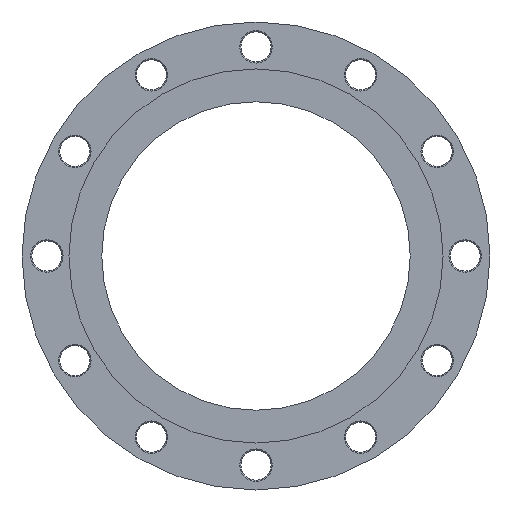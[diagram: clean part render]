
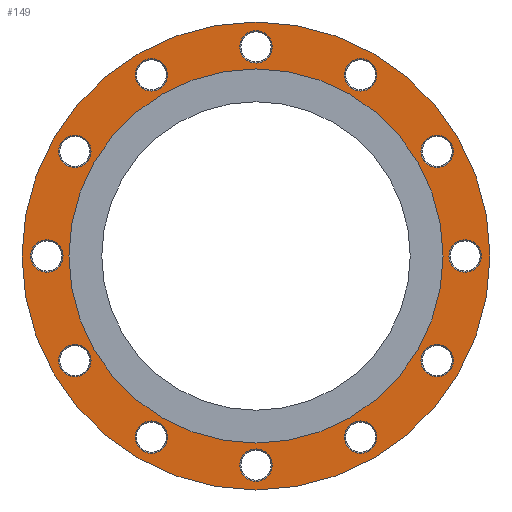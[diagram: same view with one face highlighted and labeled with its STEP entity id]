
A CAD part, front view. The second image highlights one B-rep face of the part: STEP entity #149.
In plain terms, the highlighted planar face has unit normal (0, -1, 0).
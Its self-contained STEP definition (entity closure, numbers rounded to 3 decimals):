
#149=ADVANCED_FACE('',(#209,#210,#211,#212,#213,#214,#215,#216,#217,#218,
#219,#220,#221,#222),#205,.F.);
#205=PLANE('',#836);
#209=FACE_BOUND('',#345,.T.);
#210=FACE_BOUND('',#346,.T.);
#211=FACE_BOUND('',#347,.T.);
#212=FACE_BOUND('',#348,.T.);
#213=FACE_BOUND('',#349,.T.);
#214=FACE_BOUND('',#350,.T.);
#215=FACE_BOUND('',#351,.T.);
#216=FACE_BOUND('',#352,.T.);
#217=FACE_BOUND('',#353,.T.);
#218=FACE_BOUND('',#354,.T.);
#219=FACE_BOUND('',#355,.T.);
#220=FACE_BOUND('',#356,.T.);
#221=FACE_BOUND('',#357,.T.);
#222=FACE_BOUND('',#358,.T.);
#345=EDGE_LOOP('',(#481));
#346=EDGE_LOOP('',(#482));
#347=EDGE_LOOP('',(#483));
#348=EDGE_LOOP('',(#484));
#349=EDGE_LOOP('',(#485));
#350=EDGE_LOOP('',(#486));
#351=EDGE_LOOP('',(#487));
#352=EDGE_LOOP('',(#488));
#353=EDGE_LOOP('',(#489));
#354=EDGE_LOOP('',(#490));
#355=EDGE_LOOP('',(#491));
#356=EDGE_LOOP('',(#492));
#357=EDGE_LOOP('',(#493));
#358=EDGE_LOOP('',(#494));
#481=ORIENTED_EDGE('',*,*,#685,.T.);
#482=ORIENTED_EDGE('',*,*,#686,.T.);
#483=ORIENTED_EDGE('',*,*,#687,.T.);
#484=ORIENTED_EDGE('',*,*,#688,.T.);
#485=ORIENTED_EDGE('',*,*,#689,.T.);
#486=ORIENTED_EDGE('',*,*,#690,.T.);
#487=ORIENTED_EDGE('',*,*,#691,.T.);
#488=ORIENTED_EDGE('',*,*,#692,.T.);
#489=ORIENTED_EDGE('',*,*,#693,.T.);
#490=ORIENTED_EDGE('',*,*,#694,.T.);
#491=ORIENTED_EDGE('',*,*,#695,.T.);
#492=ORIENTED_EDGE('',*,*,#696,.T.);
#493=ORIENTED_EDGE('',*,*,#697,.T.);
#494=ORIENTED_EDGE('',*,*,#698,.F.);
#617=VERTEX_POINT('',#1198);
#618=VERTEX_POINT('',#1200);
#619=VERTEX_POINT('',#1202);
#620=VERTEX_POINT('',#1204);
#621=VERTEX_POINT('',#1206);
#622=VERTEX_POINT('',#1208);
#623=VERTEX_POINT('',#1210);
#624=VERTEX_POINT('',#1212);
#625=VERTEX_POINT('',#1214);
#626=VERTEX_POINT('',#1216);
#627=VERTEX_POINT('',#1218);
#628=VERTEX_POINT('',#1220);
#629=VERTEX_POINT('',#1222);
#630=VERTEX_POINT('',#1224);
#685=EDGE_CURVE('',#617,#617,#753,.T.);
#686=EDGE_CURVE('',#618,#618,#754,.T.);
#687=EDGE_CURVE('',#619,#619,#755,.T.);
#688=EDGE_CURVE('',#620,#620,#756,.T.);
#689=EDGE_CURVE('',#621,#621,#757,.T.);
#690=EDGE_CURVE('',#622,#622,#758,.T.);
#691=EDGE_CURVE('',#623,#623,#759,.T.);
#692=EDGE_CURVE('',#624,#624,#760,.T.);
#693=EDGE_CURVE('',#625,#625,#761,.T.);
#694=EDGE_CURVE('',#626,#626,#762,.T.);
#695=EDGE_CURVE('',#627,#627,#763,.T.);
#696=EDGE_CURVE('',#628,#628,#764,.T.);
#697=EDGE_CURVE('',#629,#629,#765,.T.);
#698=EDGE_CURVE('',#630,#630,#766,.T.);
#753=CIRCLE('',#822,14.);
#754=CIRCLE('',#823,14.);
#755=CIRCLE('',#824,14.);
#756=CIRCLE('',#825,14.);
#757=CIRCLE('',#826,14.);
#758=CIRCLE('',#827,14.);
#759=CIRCLE('',#828,14.);
#760=CIRCLE('',#829,14.);
#761=CIRCLE('',#830,14.);
#762=CIRCLE('',#831,14.);
#763=CIRCLE('',#832,14.);
#764=CIRCLE('',#833,14.);
#765=CIRCLE('',#834,202.5);
#766=CIRCLE('',#835,161.9);
#822=AXIS2_PLACEMENT_3D('',#1197,#948,#949);
#823=AXIS2_PLACEMENT_3D('',#1199,#950,#951);
#824=AXIS2_PLACEMENT_3D('',#1201,#952,#953);
#825=AXIS2_PLACEMENT_3D('',#1203,#954,#955);
#826=AXIS2_PLACEMENT_3D('',#1205,#956,#957);
#827=AXIS2_PLACEMENT_3D('',#1207,#958,#959);
#828=AXIS2_PLACEMENT_3D('',#1209,#960,#961);
#829=AXIS2_PLACEMENT_3D('',#1211,#962,#963);
#830=AXIS2_PLACEMENT_3D('',#1213,#964,#965);
#831=AXIS2_PLACEMENT_3D('',#1215,#966,#967);
#832=AXIS2_PLACEMENT_3D('',#1217,#968,#969);
#833=AXIS2_PLACEMENT_3D('',#1219,#970,#971);
#834=AXIS2_PLACEMENT_3D('',#1221,#972,#973);
#835=AXIS2_PLACEMENT_3D('',#1223,#974,#975);
#836=AXIS2_PLACEMENT_3D('',#1225,#976,#977);
#948=DIRECTION('',(0.,1.,0.));
#949=DIRECTION('',(-1.,0.,0.));
#950=DIRECTION('',(0.,1.,0.));
#951=DIRECTION('',(-1.,0.,0.));
#952=DIRECTION('',(0.,1.,0.));
#953=DIRECTION('',(-1.,0.,0.));
#954=DIRECTION('',(0.,1.,0.));
#955=DIRECTION('',(-1.,0.,0.));
#956=DIRECTION('',(0.,1.,0.));
#957=DIRECTION('',(-1.,0.,0.));
#958=DIRECTION('',(0.,1.,0.));
#959=DIRECTION('',(-1.,0.,0.));
#960=DIRECTION('',(0.,1.,0.));
#961=DIRECTION('',(-1.,0.,0.));
#962=DIRECTION('',(0.,1.,0.));
#963=DIRECTION('',(-1.,0.,0.));
#964=DIRECTION('',(0.,1.,0.));
#965=DIRECTION('',(-1.,0.,0.));
#966=DIRECTION('',(0.,1.,0.));
#967=DIRECTION('',(-1.,0.,0.));
#968=DIRECTION('',(0.,1.,0.));
#969=DIRECTION('',(-1.,0.,0.));
#970=DIRECTION('',(0.,1.,0.));
#971=DIRECTION('',(-1.,0.,0.));
#972=DIRECTION('',(0.,-1.,0.));
#973=DIRECTION('',(1.,0.,0.));
#974=DIRECTION('',(0.,-1.,0.));
#975=DIRECTION('',(1.,0.,0.));
#976=DIRECTION('',(0.,1.,0.));
#977=DIRECTION('',(-1.,0.,0.));
#1197=CARTESIAN_POINT('',(156.751,2.,90.5));
#1198=CARTESIAN_POINT('',(142.751,2.,90.5));
#1199=CARTESIAN_POINT('',(90.5,2.,156.751));
#1200=CARTESIAN_POINT('',(76.5,2.,156.751));
#1201=CARTESIAN_POINT('',(0.,2.,181.));
#1202=CARTESIAN_POINT('',(-14.,2.,181.));
#1203=CARTESIAN_POINT('',(-90.5,2.,156.751));
#1204=CARTESIAN_POINT('',(-104.5,2.,156.751));
#1205=CARTESIAN_POINT('',(-156.751,2.,90.5));
#1206=CARTESIAN_POINT('',(-170.751,2.,90.5));
#1207=CARTESIAN_POINT('',(-181.,2.,0.));
#1208=CARTESIAN_POINT('',(-195.,2.,0.));
#1209=CARTESIAN_POINT('',(-156.751,2.,-90.5));
#1210=CARTESIAN_POINT('',(-170.751,2.,-90.5));
#1211=CARTESIAN_POINT('',(-90.5,2.,-156.751));
#1212=CARTESIAN_POINT('',(-104.5,2.,-156.751));
#1213=CARTESIAN_POINT('',(0.,2.,-181.));
#1214=CARTESIAN_POINT('',(-14.,2.,-181.));
#1215=CARTESIAN_POINT('',(90.5,2.,-156.751));
#1216=CARTESIAN_POINT('',(76.5,2.,-156.751));
#1217=CARTESIAN_POINT('',(156.751,2.,-90.5));
#1218=CARTESIAN_POINT('',(142.751,2.,-90.5));
#1219=CARTESIAN_POINT('',(181.,2.,0.));
#1220=CARTESIAN_POINT('',(167.,2.,0.));
#1221=CARTESIAN_POINT('',(0.,2.,0.));
#1222=CARTESIAN_POINT('',(202.5,2.,0.));
#1223=CARTESIAN_POINT('',(0.,2.,0.));
#1224=CARTESIAN_POINT('',(161.9,2.,0.));
#1225=CARTESIAN_POINT('',(202.5,2.,0.));
